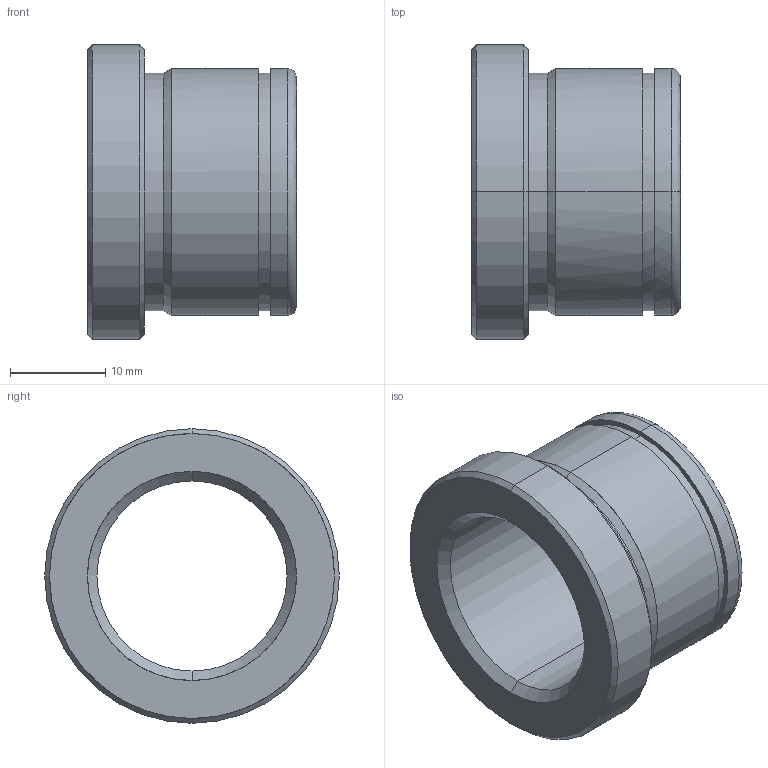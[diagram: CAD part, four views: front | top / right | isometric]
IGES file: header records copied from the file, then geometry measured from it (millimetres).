
Start section: START RECORD GO HERE.
Global section: file name: 553-20X22.igs; native system: DASSAULT SYSTEMES CATIA V5 R20 - www.3ds.com; preprocessor: CATIA Version 5 Release 20 ; author: Utente; organization: NB04-ASUS; date: 20210523.201742; units: millimetre
Bounding box: 22 x 31 x 31 mm (x, y, z)
Surface area: 4105.8 mm2 (no closed solid volume)
Topology: 0 solids, 0 shells, 29 faces, 184 edges, 184 vertices
Faces by surface type: revolution 24, plane 5
